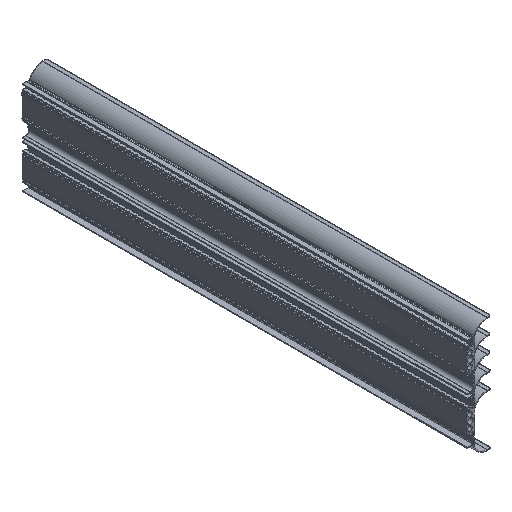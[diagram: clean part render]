
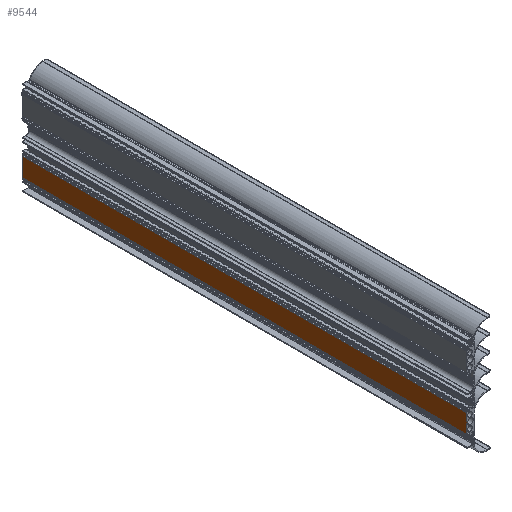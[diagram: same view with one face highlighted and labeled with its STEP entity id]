
A CAD part, isometric view. The second image highlights one B-rep face of the part: STEP entity #9544.
In plain terms, the highlighted planar face has unit normal (-1, 0, 0) as drawn and (0, 1, 0) by its records, which use the part's own axes.
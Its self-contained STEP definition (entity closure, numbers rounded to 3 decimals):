
#238 = EDGE_CURVE ( 'NONE', #11633, #10792, #9327, .T. ) ;
#301 = DIRECTION ( 'NONE',  ( 1., 0., 0. ) ) ;
#401 = CARTESIAN_POINT ( 'NONE',  ( 37.65, 15.5, 1800. ) ) ;
#410 = VECTOR ( 'NONE', #11469, 1000. ) ;
#1092 = ORIENTED_EDGE ( 'NONE', *, *, #10465, .T. ) ;
#1781 = VECTOR ( 'NONE', #4790, 1000. ) ;
#1971 = ORIENTED_EDGE ( 'NONE', *, *, #7889, .F. ) ;
#2444 = ORIENTED_EDGE ( 'NONE', *, *, #238, .T. ) ;
#2770 = LINE ( 'NONE', #6102, #410 ) ;
#3321 = CARTESIAN_POINT ( 'NONE',  ( 37.65, 15.5, 0. ) ) ;
#3337 = ORIENTED_EDGE ( 'NONE', *, *, #8010, .F. ) ;
#4295 = CARTESIAN_POINT ( 'NONE',  ( -37.65, 15.5, 0. ) ) ;
#4790 = DIRECTION ( 'NONE',  ( -1., 0., 0. ) ) ;
#5426 = CARTESIAN_POINT ( 'NONE',  ( 37.65, 15.5, 1800. ) ) ;
#5598 = PLANE ( 'NONE',  #8104 ) ;
#5659 = CARTESIAN_POINT ( 'NONE',  ( 37.65, 15.5, 1800. ) ) ;
#6102 = CARTESIAN_POINT ( 'NONE',  ( -37.65, 15.5, 1800. ) ) ;
#6247 = DIRECTION ( 'NONE',  ( -1., 0., 0. ) ) ;
#6602 = LINE ( 'NONE', #5426, #9002 ) ;
#6638 = FACE_OUTER_BOUND ( 'NONE', #13349, .T. ) ;
#6781 = VERTEX_POINT ( 'NONE', #8126 ) ;
#7823 = DIRECTION ( 'NONE',  ( 0., -1., 0. ) ) ;
#7889 = EDGE_CURVE ( 'NONE', #6781, #11283, #9950, .T. ) ;
#8010 = EDGE_CURVE ( 'NONE', #11283, #10792, #2770, .T. ) ;
#8104 = AXIS2_PLACEMENT_3D ( 'NONE', #5659, #7823, #301 ) ;
#8126 = CARTESIAN_POINT ( 'NONE',  ( 37.65, 15.5, 1800. ) ) ;
#8484 = VECTOR ( 'NONE', #6247, 1000. ) ;
#9002 = VECTOR ( 'NONE', #12862, 1000. ) ;
#9327 = LINE ( 'NONE', #12584, #8484 ) ;
#9544 = ADVANCED_FACE ( 'NONE', ( #6638 ), #5598, .F. ) ;
#9950 = LINE ( 'NONE', #401, #1781 ) ;
#10465 = EDGE_CURVE ( 'NONE', #6781, #11633, #6602, .T. ) ;
#10792 = VERTEX_POINT ( 'NONE', #4295 ) ;
#11283 = VERTEX_POINT ( 'NONE', #11958 ) ;
#11469 = DIRECTION ( 'NONE',  ( 0., 0., -1. ) ) ;
#11633 = VERTEX_POINT ( 'NONE', #3321 ) ;
#11958 = CARTESIAN_POINT ( 'NONE',  ( -37.65, 15.5, 1800. ) ) ;
#12584 = CARTESIAN_POINT ( 'NONE',  ( 37.65, 15.5, 0. ) ) ;
#12862 = DIRECTION ( 'NONE',  ( 0., 0., -1. ) ) ;
#13349 = EDGE_LOOP ( 'NONE', ( #2444, #3337, #1971, #1092 ) ) ;
